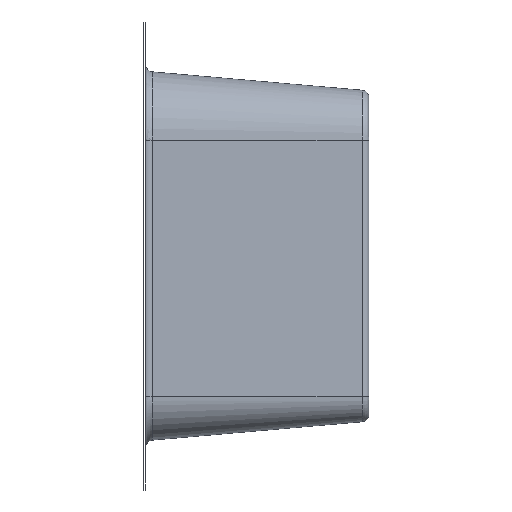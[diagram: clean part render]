
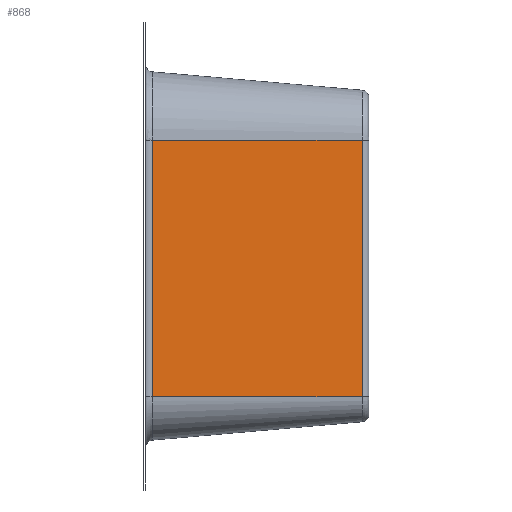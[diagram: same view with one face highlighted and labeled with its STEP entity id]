
A CAD part, left-side view. The second image highlights one B-rep face of the part: STEP entity #868.
In plain terms, the highlighted free-form (B-spline) face has degree [5, 1] with [6, 2] control points.
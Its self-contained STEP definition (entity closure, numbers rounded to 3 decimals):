
#273=CARTESIAN_POINT('Vertex',(-0.24,2.739,114.)) ;
#276=CARTESIAN_POINT('Line Origine',(-0.24,2.739,68.013)) ;
#280=CARTESIAN_POINT('Vertex',(-0.24,2.739,10.)) ;
#822=CARTESIAN_POINT('Control Point',(-7.931,90.654,10.)) ;
#823=CARTESIAN_POINT('Control Point',(0.,0.,10.)) ;
#824=CARTESIAN_POINT('Control Point',(-7.931,90.654,30.8)) ;
#825=CARTESIAN_POINT('Control Point',(0.,0.,30.8)) ;
#826=CARTESIAN_POINT('Control Point',(-7.931,90.654,51.6)) ;
#827=CARTESIAN_POINT('Control Point',(0.,0.,51.6)) ;
#828=CARTESIAN_POINT('Control Point',(-7.931,90.654,72.4)) ;
#829=CARTESIAN_POINT('Control Point',(0.,0.,72.4)) ;
#830=CARTESIAN_POINT('Control Point',(-7.931,90.654,93.2)) ;
#831=CARTESIAN_POINT('Control Point',(0.,0.,93.2)) ;
#832=CARTESIAN_POINT('Control Point',(-7.931,90.654,114.)) ;
#833=CARTESIAN_POINT('Control Point',(0.,0.,114.)) ;
#835=CARTESIAN_POINT('Control Point',(-7.692,87.915,114.)) ;
#836=CARTESIAN_POINT('Control Point',(-6.201,70.88,114.)) ;
#837=CARTESIAN_POINT('Control Point',(-4.711,53.845,114.)) ;
#838=CARTESIAN_POINT('Control Point',(-3.22,36.809,114.)) ;
#839=CARTESIAN_POINT('Control Point',(-1.73,19.774,114.)) ;
#840=CARTESIAN_POINT('Control Point',(-0.24,2.739,114.)) ;
#841=CARTESIAN_POINT('Vertex',(-7.692,87.915,114.)) ;
#845=CARTESIAN_POINT('Control Point',(-7.692,87.915,10.)) ;
#846=CARTESIAN_POINT('Control Point',(-7.692,87.915,30.8)) ;
#847=CARTESIAN_POINT('Control Point',(-7.692,87.915,51.6)) ;
#848=CARTESIAN_POINT('Control Point',(-7.692,87.915,72.4)) ;
#849=CARTESIAN_POINT('Control Point',(-7.692,87.915,93.2)) ;
#850=CARTESIAN_POINT('Control Point',(-7.692,87.915,114.)) ;
#851=CARTESIAN_POINT('Vertex',(-7.692,87.915,10.)) ;
#855=CARTESIAN_POINT('Control Point',(-7.692,87.915,10.)) ;
#856=CARTESIAN_POINT('Control Point',(-6.201,70.88,10.)) ;
#857=CARTESIAN_POINT('Control Point',(-4.711,53.845,10.)) ;
#858=CARTESIAN_POINT('Control Point',(-3.22,36.809,10.)) ;
#859=CARTESIAN_POINT('Control Point',(-1.73,19.774,10.)) ;
#860=CARTESIAN_POINT('Control Point',(-0.24,2.739,10.)) ;
#277=DIRECTION('Vector Direction',(0.,0.,1.)) ;
#863=ORIENTED_EDGE('',*,*,#282,.F.) ;
#864=ORIENTED_EDGE('',*,*,#843,.F.) ;
#865=ORIENTED_EDGE('',*,*,#853,.F.) ;
#866=ORIENTED_EDGE('',*,*,#861,.T.) ;
#278=VECTOR('Line Direction',#277,1.) ;
#868=ADVANCED_FACE('base',(#867),#821,.F.) ;
#834=B_SPLINE_CURVE_WITH_KNOTS('',5,(#835,#836,#837,#838,#839,#840),.UNSPECIFIED.,.F.,.U.,(6,6),(2.749,88.251),.UNSPECIFIED.) ;
#844=B_SPLINE_CURVE_WITH_KNOTS('',5,(#845,#846,#847,#848,#849,#850),.UNSPECIFIED.,.F.,.U.,(6,6),(0.,104.),.UNSPECIFIED.) ;
#854=B_SPLINE_CURVE_WITH_KNOTS('',5,(#855,#856,#857,#858,#859,#860),.UNSPECIFIED.,.F.,.U.,(6,6),(2.749,88.251),.UNSPECIFIED.) ;
#821=B_SPLINE_SURFACE_WITH_KNOTS('',5,1,((#822,#823),(#824,#825),(#826,#827),(#828,#829),(#830,#831),(#832,#833)),.UNSPECIFIED.,.F.,.F.,.U.,(6,6),(2,2),(0.,104.),(0.,91.),.UNSPECIFIED.) ;
#282=EDGE_CURVE('',#274,#281,#279,.F.) ;
#843=EDGE_CURVE('',#842,#274,#834,.T.) ;
#853=EDGE_CURVE('',#852,#842,#844,.T.) ;
#861=EDGE_CURVE('',#852,#281,#854,.T.) ;
#862=EDGE_LOOP('',(#863,#864,#865,#866)) ;
#867=FACE_OUTER_BOUND('',#862,.T.) ;
#279=LINE('Line',#276,#278) ;
#274=VERTEX_POINT('',#273) ;
#281=VERTEX_POINT('',#280) ;
#842=VERTEX_POINT('',#841) ;
#852=VERTEX_POINT('',#851) ;
